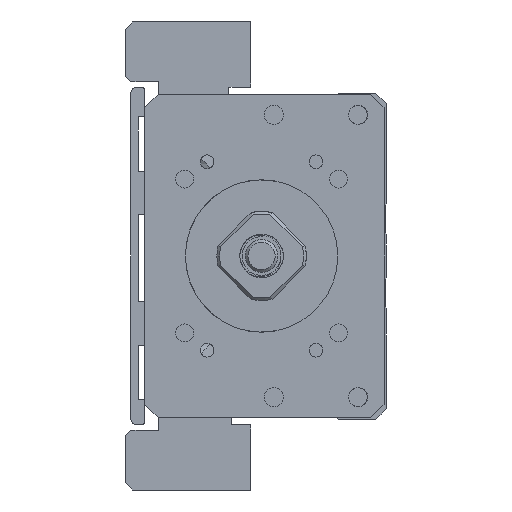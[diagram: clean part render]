
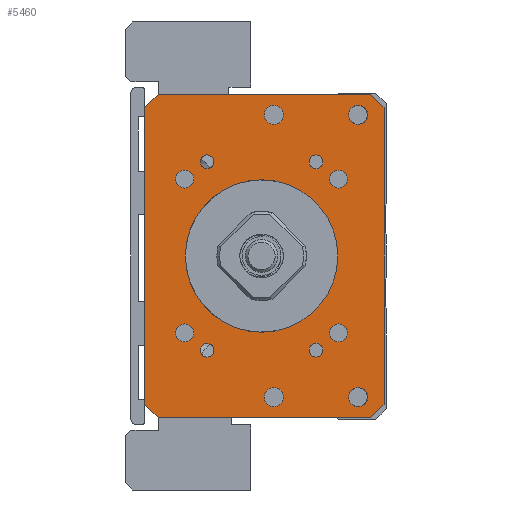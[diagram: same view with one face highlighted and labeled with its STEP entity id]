
A CAD part, left-side view. The second image highlights one B-rep face of the part: STEP entity #5460.
In plain terms, the highlighted planar face has unit normal (-1, 0, 0).
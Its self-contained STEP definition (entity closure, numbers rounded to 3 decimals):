
#4478=FACE_BOUND('',#7165,.T.);
#4479=FACE_BOUND('',#7166,.T.);
#4480=FACE_BOUND('',#7167,.T.);
#4481=FACE_BOUND('',#7168,.T.);
#4482=FACE_BOUND('',#7169,.T.);
#4483=FACE_BOUND('',#7170,.T.);
#4484=FACE_BOUND('',#7171,.T.);
#4485=FACE_BOUND('',#7172,.T.);
#4486=FACE_BOUND('',#7173,.T.);
#4487=FACE_BOUND('',#7174,.T.);
#4488=FACE_BOUND('',#7175,.T.);
#4489=FACE_BOUND('',#7176,.T.);
#4490=FACE_BOUND('',#7177,.T.);
#4491=FACE_BOUND('',#7178,.T.);
#4853=CIRCLE('',#15644,14.);
#4862=CIRCLE('',#15655,1.65);
#4863=CIRCLE('',#15656,1.65);
#4864=CIRCLE('',#15657,1.65);
#4865=CIRCLE('',#15658,1.65);
#4866=CIRCLE('',#15659,1.25);
#4867=CIRCLE('',#15660,1.75);
#4868=CIRCLE('',#15661,1.25);
#4869=CIRCLE('',#15662,1.75);
#4870=CIRCLE('',#15663,1.25);
#4871=CIRCLE('',#15664,1.75);
#4872=CIRCLE('',#15665,1.75);
#4873=CIRCLE('',#15666,1.25);
#5460=ADVANCED_FACE('',(#4478,#4479,#4480,#4481,#4482,#4483,#4484,#4485,
#4486,#4487,#4488,#4489,#4490,#4491),#5954,.F.);
#5954=PLANE('',#15667);
#7165=EDGE_LOOP('',(#9730));
#7166=EDGE_LOOP('',(#9731));
#7167=EDGE_LOOP('',(#9732));
#7168=EDGE_LOOP('',(#9733));
#7169=EDGE_LOOP('',(#9734));
#7170=EDGE_LOOP('',(#9735));
#7171=EDGE_LOOP('',(#9736));
#7172=EDGE_LOOP('',(#9737));
#7173=EDGE_LOOP('',(#9738));
#7174=EDGE_LOOP('',(#9739,#9740,#9741,#9742,#9743,#9744,#9745,#9746));
#7175=EDGE_LOOP('',(#9747));
#7176=EDGE_LOOP('',(#9748));
#7177=EDGE_LOOP('',(#9749));
#7178=EDGE_LOOP('',(#9750));
#9730=ORIENTED_EDGE('',*,*,#12628,.F.);
#9731=ORIENTED_EDGE('',*,*,#12629,.F.);
#9732=ORIENTED_EDGE('',*,*,#12630,.F.);
#9733=ORIENTED_EDGE('',*,*,#12631,.F.);
#9734=ORIENTED_EDGE('',*,*,#12632,.F.);
#9735=ORIENTED_EDGE('',*,*,#12633,.T.);
#9736=ORIENTED_EDGE('',*,*,#12634,.F.);
#9737=ORIENTED_EDGE('',*,*,#12635,.F.);
#9738=ORIENTED_EDGE('',*,*,#12636,.F.);
#9739=ORIENTED_EDGE('',*,*,#12625,.T.);
#9740=ORIENTED_EDGE('',*,*,#12637,.T.);
#9741=ORIENTED_EDGE('',*,*,#12638,.F.);
#9742=ORIENTED_EDGE('',*,*,#12639,.T.);
#9743=ORIENTED_EDGE('',*,*,#12640,.F.);
#9744=ORIENTED_EDGE('',*,*,#12641,.T.);
#9745=ORIENTED_EDGE('',*,*,#12642,.T.);
#9746=ORIENTED_EDGE('',*,*,#12643,.T.);
#9747=ORIENTED_EDGE('',*,*,#12644,.F.);
#9748=ORIENTED_EDGE('',*,*,#12645,.F.);
#9749=ORIENTED_EDGE('',*,*,#12646,.F.);
#9750=ORIENTED_EDGE('',*,*,#12605,.F.);
#11226=VERTEX_POINT('',#21998);
#11246=VERTEX_POINT('',#22058);
#11247=VERTEX_POINT('',#22060);
#11249=VERTEX_POINT('',#22066);
#11250=VERTEX_POINT('',#22068);
#11251=VERTEX_POINT('',#22070);
#11252=VERTEX_POINT('',#22072);
#11253=VERTEX_POINT('',#22074);
#11254=VERTEX_POINT('',#22076);
#11255=VERTEX_POINT('',#22078);
#11256=VERTEX_POINT('',#22080);
#11257=VERTEX_POINT('',#22082);
#11258=VERTEX_POINT('',#22084);
#11259=VERTEX_POINT('',#22086);
#11260=VERTEX_POINT('',#22088);
#11261=VERTEX_POINT('',#22090);
#11262=VERTEX_POINT('',#22092);
#11263=VERTEX_POINT('',#22094);
#11264=VERTEX_POINT('',#22097);
#11265=VERTEX_POINT('',#22099);
#11266=VERTEX_POINT('',#22101);
#12605=EDGE_CURVE('',#11226,#11226,#4853,.T.);
#12625=EDGE_CURVE('',#11247,#11246,#13771,.T.);
#12628=EDGE_CURVE('',#11249,#11249,#4862,.T.);
#12629=EDGE_CURVE('',#11250,#11250,#4863,.T.);
#12630=EDGE_CURVE('',#11251,#11251,#4864,.T.);
#12631=EDGE_CURVE('',#11252,#11252,#4865,.T.);
#12632=EDGE_CURVE('',#11253,#11253,#4866,.T.);
#12633=EDGE_CURVE('',#11254,#11254,#4867,.T.);
#12634=EDGE_CURVE('',#11255,#11255,#4868,.T.);
#12635=EDGE_CURVE('',#11256,#11256,#4869,.T.);
#12636=EDGE_CURVE('',#11257,#11257,#4870,.T.);
#12637=EDGE_CURVE('',#11246,#11258,#13773,.T.);
#12638=EDGE_CURVE('',#11259,#11258,#13774,.T.);
#12639=EDGE_CURVE('',#11259,#11260,#13775,.T.);
#12640=EDGE_CURVE('',#11261,#11260,#13776,.T.);
#12641=EDGE_CURVE('',#11261,#11262,#13777,.T.);
#12642=EDGE_CURVE('',#11262,#11263,#13778,.T.);
#12643=EDGE_CURVE('',#11263,#11247,#13779,.T.);
#12644=EDGE_CURVE('',#11264,#11264,#4871,.T.);
#12645=EDGE_CURVE('',#11265,#11265,#4872,.T.);
#12646=EDGE_CURVE('',#11266,#11266,#4873,.T.);
#13771=LINE('',#22059,#14718);
#13773=LINE('',#22083,#14720);
#13774=LINE('',#22085,#14721);
#13775=LINE('',#22087,#14722);
#13776=LINE('',#22089,#14723);
#13777=LINE('',#22091,#14724);
#13778=LINE('',#22093,#14725);
#13779=LINE('',#22095,#14726);
#14718=VECTOR('',#18319,1.);
#14720=VECTOR('',#18343,1.);
#14721=VECTOR('',#18344,1.);
#14722=VECTOR('',#18345,1.);
#14723=VECTOR('',#18346,1.);
#14724=VECTOR('',#18347,1.);
#14725=VECTOR('',#18348,1.);
#14726=VECTOR('',#18349,1.);
#15644=AXIS2_PLACEMENT_3D('',#21997,#18293,#18294);
#15655=AXIS2_PLACEMENT_3D('',#22065,#18325,#18326);
#15656=AXIS2_PLACEMENT_3D('',#22067,#18327,#18328);
#15657=AXIS2_PLACEMENT_3D('',#22069,#18329,#18330);
#15658=AXIS2_PLACEMENT_3D('',#22071,#18331,#18332);
#15659=AXIS2_PLACEMENT_3D('',#22073,#18333,#18334);
#15660=AXIS2_PLACEMENT_3D('',#22075,#18335,#18336);
#15661=AXIS2_PLACEMENT_3D('',#22077,#18337,#18338);
#15662=AXIS2_PLACEMENT_3D('',#22079,#18339,#18340);
#15663=AXIS2_PLACEMENT_3D('',#22081,#18341,#18342);
#15664=AXIS2_PLACEMENT_3D('',#22096,#18350,#18351);
#15665=AXIS2_PLACEMENT_3D('',#22098,#18352,#18353);
#15666=AXIS2_PLACEMENT_3D('',#22100,#18354,#18355);
#15667=AXIS2_PLACEMENT_3D('',#22102,#18356,#18357);
#18293=DIRECTION('',(-1.,0.,0.));
#18294=DIRECTION('',(0.,1.,0.));
#18319=DIRECTION('',(0.,0.,-1.));
#18325=DIRECTION('',(-1.,0.,0.));
#18326=DIRECTION('',(0.,0.,1.));
#18327=DIRECTION('',(-1.,0.,0.));
#18328=DIRECTION('',(0.,0.,1.));
#18329=DIRECTION('',(-1.,0.,0.));
#18330=DIRECTION('',(0.,0.,1.));
#18331=DIRECTION('',(-1.,0.,0.));
#18332=DIRECTION('',(0.,0.,1.));
#18333=DIRECTION('',(-1.,0.,0.));
#18334=DIRECTION('',(0.,1.,0.));
#18335=DIRECTION('',(1.,0.,0.));
#18336=DIRECTION('',(0.,0.,1.));
#18337=DIRECTION('',(-1.,0.,0.));
#18338=DIRECTION('',(0.,1.,0.));
#18339=DIRECTION('',(-1.,0.,0.));
#18340=DIRECTION('',(0.,0.,1.));
#18341=DIRECTION('',(-1.,0.,0.));
#18342=DIRECTION('',(0.,1.,0.));
#18343=DIRECTION('',(0.,-0.707,-0.707));
#18344=DIRECTION('',(0.,1.,0.));
#18345=DIRECTION('',(0.,-0.707,0.707));
#18346=DIRECTION('',(0.,0.,-1.));
#18347=DIRECTION('',(0.,0.707,0.707));
#18348=DIRECTION('',(0.,1.,0.));
#18349=DIRECTION('',(0.,0.707,-0.707));
#18350=DIRECTION('',(-1.,0.,0.));
#18351=DIRECTION('',(0.,0.,1.));
#18352=DIRECTION('',(-1.,0.,0.));
#18353=DIRECTION('',(0.,0.,1.));
#18354=DIRECTION('',(-1.,0.,0.));
#18355=DIRECTION('',(0.,1.,0.));
#18356=DIRECTION('',(1.,0.,0.));
#18357=DIRECTION('',(0.,1.,0.));
#21997=CARTESIAN_POINT('',(-211.,0.,-500.));
#21998=CARTESIAN_POINT('',(-211.,14.,-500.));
#22058=CARTESIAN_POINT('',(-211.,21.499,-527.25));
#22059=CARTESIAN_POINT('',(-211.,21.499,-470.25));
#22060=CARTESIAN_POINT('',(-211.,21.499,-472.75));
#22065=CARTESIAN_POINT('',(-211.,14.142,-485.858));
#22066=CARTESIAN_POINT('',(-211.,14.142,-484.208));
#22067=CARTESIAN_POINT('',(-211.,-14.142,-485.858));
#22068=CARTESIAN_POINT('',(-211.,-14.142,-484.208));
#22069=CARTESIAN_POINT('',(-211.,14.142,-514.142));
#22070=CARTESIAN_POINT('',(-211.,14.142,-512.492));
#22071=CARTESIAN_POINT('',(-211.,-14.142,-514.142));
#22072=CARTESIAN_POINT('',(-211.,-14.142,-512.492));
#22073=CARTESIAN_POINT('',(-211.,-10.,-517.321));
#22074=CARTESIAN_POINT('',(-211.,-8.75,-517.321));
#22075=CARTESIAN_POINT('',(-211.,-2.25,-525.936));
#22076=CARTESIAN_POINT('',(-211.,-2.25,-524.186));
#22077=CARTESIAN_POINT('',(-211.,10.,-482.679));
#22078=CARTESIAN_POINT('',(-211.,11.25,-482.679));
#22079=CARTESIAN_POINT('',(-211.,-2.25,-474.064));
#22080=CARTESIAN_POINT('',(-211.,-2.25,-472.314));
#22081=CARTESIAN_POINT('',(-211.,10.,-517.321));
#22082=CARTESIAN_POINT('',(-211.,11.25,-517.321));
#22083=CARTESIAN_POINT('',(-211.,18.999,-529.75));
#22084=CARTESIAN_POINT('',(-211.,18.999,-529.75));
#22085=CARTESIAN_POINT('',(-211.,-22.501,-529.75));
#22086=CARTESIAN_POINT('',(-211.,-20.001,-529.75));
#22087=CARTESIAN_POINT('',(-211.,-22.501,-527.25));
#22088=CARTESIAN_POINT('',(-211.,-22.501,-527.25));
#22089=CARTESIAN_POINT('',(-211.,-22.501,-470.25));
#22090=CARTESIAN_POINT('',(-211.,-22.501,-472.75));
#22091=CARTESIAN_POINT('',(-211.,-22.501,-472.75));
#22092=CARTESIAN_POINT('',(-211.,-20.001,-470.25));
#22093=CARTESIAN_POINT('',(-211.,-22.501,-470.25));
#22094=CARTESIAN_POINT('',(-211.,18.999,-470.25));
#22095=CARTESIAN_POINT('',(-211.,18.999,-470.25));
#22096=CARTESIAN_POINT('',(-211.,-17.75,-474.064));
#22097=CARTESIAN_POINT('',(-211.,-17.75,-472.314));
#22098=CARTESIAN_POINT('',(-211.,-17.75,-525.936));
#22099=CARTESIAN_POINT('',(-211.,-17.75,-524.186));
#22100=CARTESIAN_POINT('',(-211.,-10.,-482.679));
#22101=CARTESIAN_POINT('',(-211.,-8.75,-482.679));
#22102=CARTESIAN_POINT('',(-211.,-22.501,-470.25));
